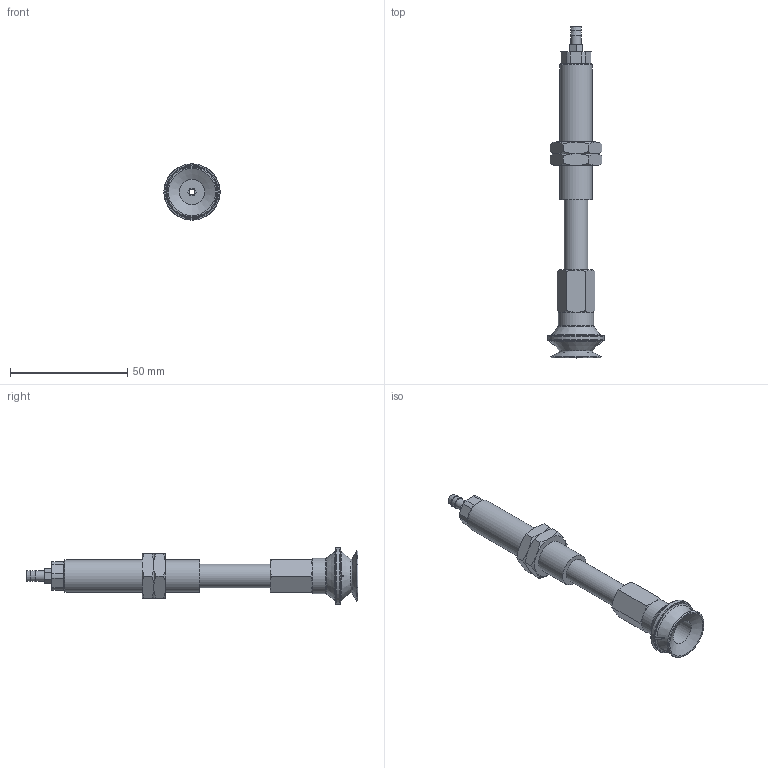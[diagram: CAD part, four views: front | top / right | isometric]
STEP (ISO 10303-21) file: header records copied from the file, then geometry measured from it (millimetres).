
FILE_DESCRIPTION(('STEP AP203'),'1');
FILE_NAME('-T.stp','2025-08-27T01:17:24',(' '),(' '),'Spatial InterOp 3D',' ',' ');
FILE_SCHEMA(('CONFIG_CONTROL_DESIGN'));
Length unit declared in the file: millimetre
Products named in the file (8): BNABPBTS-20-30-※-T; ADAPTER; NAPBTS-20-30--M; Adapter20-T-NAPB; Nut-20-S-PB; NAPBTS-20-30--F; BPBG-20-※; T
Assembly tree (8 placements, depth 2):
  BNABPBTS-20-30-※-T
    ADAPTER
    NAPBTS-20-30--M
    Adapter20-T-NAPB
    Nut-20-S-PB  x2
    NAPBTS-20-30--F
    BPBG-20-※
    T
Bounding box: 24 x 141.5 x 24 mm (x, y, z)
Volume: 19536.3 mm3; surface area: 15098.2 mm2
Topology: 8 solids, 8 shells, 157 faces, 337 edges, 207 vertices
Faces by surface type: plane 69, cone 54, cylinder 25, torus 9
Full cylindrical faces by diameter (mm): 2.5 x1, 3 x3, 4.134 x2, 4.3 x1, 4.6 x1, 5 x2, 10 x2, 10.8 x1, 11 x1, 12.917 x2, 14 x1, 15 x1, 24 x1
Entity records: 4008 total; most frequent: CARTESIAN_POINT 889, DIRECTION 586, ORIENTED_EDGE 480, AXIS2_PLACEMENT_3D 251, EDGE_CURVE 240, EDGE_LOOP 198, VERTEX_POINT 170, FACE_OUTER_BOUND 159
